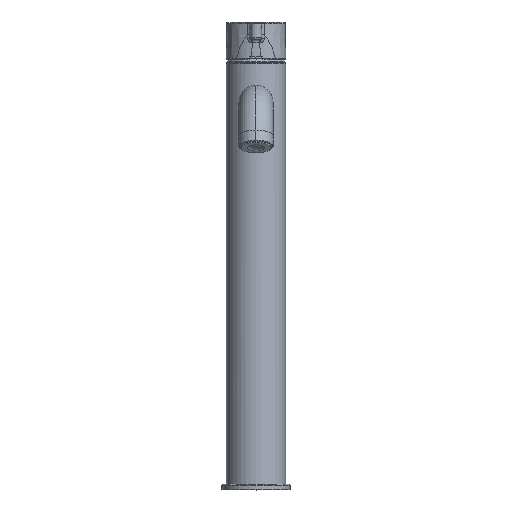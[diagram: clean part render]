
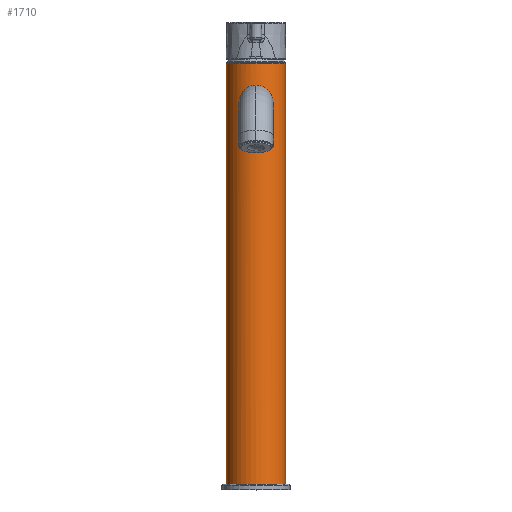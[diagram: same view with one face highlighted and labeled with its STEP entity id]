
A CAD part, top view. The second image highlights one B-rep face of the part: STEP entity #1710.
In plain terms, the highlighted cylindrical face has radius 21 mm (diameter 42 mm), a partial arc.
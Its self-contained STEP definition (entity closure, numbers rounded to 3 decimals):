
#31=CARTESIAN_POINT('',(0.,0.,0.));
#32=DIRECTION('',(0.,1.,0.));
#33=DIRECTION('',(-1.,0.,0.));
#34=AXIS2_PLACEMENT_3D('',#31,#32,#33);
#79=DIRECTION('',(0.,1.,0.));
#80=VECTOR('',#79,297.);
#81=CARTESIAN_POINT('',(-21.,0.,0.));
#82=LINE('',#81,#80);
#83=CARTESIAN_POINT('',(0.,281.2,21.));
#84=CARTESIAN_POINT('',(-0.452,281.2,21.));
#85=CARTESIAN_POINT('',(-1.354,281.149,20.971));
#86=CARTESIAN_POINT('',(-2.698,280.92,20.841));
#87=CARTESIAN_POINT('',(-4.031,280.532,20.624));
#88=CARTESIAN_POINT('',(-5.346,279.976,20.323));
#89=CARTESIAN_POINT('',(-6.628,279.24,19.941));
#90=CARTESIAN_POINT('',(-7.807,278.353,19.507));
#91=CARTESIAN_POINT('',(-8.868,277.329,19.046));
#92=CARTESIAN_POINT('',(-9.799,276.179,18.582));
#93=CARTESIAN_POINT('',(-10.578,274.928,18.147));
#94=CARTESIAN_POINT('',(-11.171,273.653,17.786));
#95=CARTESIAN_POINT('',(-11.588,272.406,17.515));
#96=CARTESIAN_POINT('',(-11.861,271.163,17.33));
#97=CARTESIAN_POINT('',(-12.001,269.908,17.233));
#98=CARTESIAN_POINT('',(-12.009,268.647,17.227));
#99=CARTESIAN_POINT('',(-11.885,267.389,17.314));
#100=CARTESIAN_POINT('',(-11.63,266.153,17.487));
#101=CARTESIAN_POINT('',(-11.236,264.913,17.744));
#102=CARTESIAN_POINT('',(-10.65,263.605,18.105));
#103=CARTESIAN_POINT('',(-9.861,262.305,18.55));
#104=CARTESIAN_POINT('',(-8.909,261.113,19.028));
#105=CARTESIAN_POINT('',(-7.82,260.056,19.503));
#106=CARTESIAN_POINT('',(-6.622,259.156,19.943));
#107=CARTESIAN_POINT('',(-5.349,258.426,20.322));
#108=CARTESIAN_POINT('',(-4.037,257.87,20.623));
#109=CARTESIAN_POINT('',(-2.701,257.481,20.84));
#110=CARTESIAN_POINT('',(-1.351,257.251,20.971));
#111=CARTESIAN_POINT('',(-0.45,257.2,21.));
#112=CARTESIAN_POINT('',(0.,257.2,21.));
#114=CARTESIAN_POINT('',(0.,257.2,21.));
#115=CARTESIAN_POINT('',(0.452,257.2,21.));
#116=CARTESIAN_POINT('',(1.354,257.251,20.971));
#117=CARTESIAN_POINT('',(2.698,257.48,20.841));
#118=CARTESIAN_POINT('',(4.031,257.868,20.624));
#119=CARTESIAN_POINT('',(5.346,258.424,20.323));
#120=CARTESIAN_POINT('',(6.627,259.16,19.941));
#121=CARTESIAN_POINT('',(7.807,260.047,19.507));
#122=CARTESIAN_POINT('',(8.868,261.071,19.046));
#123=CARTESIAN_POINT('',(9.799,262.221,18.582));
#124=CARTESIAN_POINT('',(10.578,263.472,18.147));
#125=CARTESIAN_POINT('',(11.171,264.747,17.786));
#126=CARTESIAN_POINT('',(11.588,265.994,17.515));
#127=CARTESIAN_POINT('',(11.861,267.237,17.33));
#128=CARTESIAN_POINT('',(12.001,268.492,17.233));
#129=CARTESIAN_POINT('',(12.009,269.753,17.227));
#130=CARTESIAN_POINT('',(11.885,271.011,17.314));
#131=CARTESIAN_POINT('',(11.63,272.247,17.487));
#132=CARTESIAN_POINT('',(11.236,273.487,17.744));
#133=CARTESIAN_POINT('',(10.65,274.796,18.105));
#134=CARTESIAN_POINT('',(9.861,276.095,18.55));
#135=CARTESIAN_POINT('',(8.909,277.287,19.028));
#136=CARTESIAN_POINT('',(7.82,278.344,19.503));
#137=CARTESIAN_POINT('',(6.622,279.244,19.943));
#138=CARTESIAN_POINT('',(5.349,279.974,20.322));
#139=CARTESIAN_POINT('',(4.037,280.53,20.623));
#140=CARTESIAN_POINT('',(2.701,280.919,20.84));
#141=CARTESIAN_POINT('',(1.351,281.149,20.971));
#142=CARTESIAN_POINT('',(0.45,281.2,21.));
#143=CARTESIAN_POINT('',(0.,281.2,21.));
#145=DIRECTION('',(0.,1.,0.));
#146=VECTOR('',#145,297.);
#147=CARTESIAN_POINT('',(21.,0.,0.));
#148=LINE('',#147,#146);
#194=CARTESIAN_POINT('',(0.,297.,0.));
#195=DIRECTION('',(0.,-1.,0.));
#196=DIRECTION('',(1.,0.,0.));
#197=AXIS2_PLACEMENT_3D('',#194,#195,#196);
#1448=CARTESIAN_POINT('',(-21.,297.,0.));
#1449=VERTEX_POINT('',#1448);
#1450=CARTESIAN_POINT('',(21.,297.,0.));
#1451=VERTEX_POINT('',#1450);
#1452=CARTESIAN_POINT('',(-21.,0.,0.));
#1453=VERTEX_POINT('',#1452);
#1454=CARTESIAN_POINT('',(21.,0.,0.));
#1455=VERTEX_POINT('',#1454);
#1456=VERTEX_POINT('',#83);
#1457=VERTEX_POINT('',#112);
#1690=CARTESIAN_POINT('',(0.,312.375,0.));
#1691=DIRECTION('',(0.,-1.,0.));
#1692=DIRECTION('',(-1.,0.,0.));
#1693=AXIS2_PLACEMENT_3D('',#1690,#1691,#1692);
#1694=CYLINDRICAL_SURFACE('',#1693,21.);
#1696=ORIENTED_EDGE('',*,*,#1695,.T.);
#1698=ORIENTED_EDGE('',*,*,#1697,.F.);
#1700=ORIENTED_EDGE('',*,*,#1699,.F.);
#1701=ORIENTED_EDGE('',*,*,#1627,.F.);
#1702=EDGE_LOOP('',(#1696,#1698,#1700,#1701));
#1703=FACE_OUTER_BOUND('',#1702,.F.);
#1705=ORIENTED_EDGE('',*,*,#1704,.T.);
#1707=ORIENTED_EDGE('',*,*,#1706,.T.);
#1708=EDGE_LOOP('',(#1705,#1707));
#1709=FACE_BOUND('',#1708,.F.);
#1710=ADVANCED_FACE('',(#1703,#1709),#1694,.T.);
#35=CIRCLE('',#34,21.);
#113=B_SPLINE_CURVE_WITH_KNOTS('',3,(#83,#84,#85,#86,#87,#88,#89,#90,#91,#92,
#93,#94,#95,#96,#97,#98,#99,#100,#101,#102,#103,#104,#105,#106,#107,#108,#109,
#110,#111,#112),.UNSPECIFIED.,.F.,.F.,(4,1,1,1,1,1,1,1,1,1,1,1,1,1,1,1,1,1,1,1,
1,1,1,1,1,1,1,4),(0.,0.037,0.074,0.111,
0.148,0.185,0.222,0.259,
0.296,0.333,0.37,0.407,
0.444,0.481,0.519,0.556,
0.593,0.63,0.667,0.704,
0.741,0.778,0.815,0.852,
0.889,0.926,0.963,1.),.UNSPECIFIED.);
#144=B_SPLINE_CURVE_WITH_KNOTS('',3,(#114,#115,#116,#117,#118,#119,#120,#121,
#122,#123,#124,#125,#126,#127,#128,#129,#130,#131,#132,#133,#134,#135,#136,#137,
#138,#139,#140,#141,#142,#143),.UNSPECIFIED.,.F.,.F.,(4,1,1,1,1,1,1,1,1,1,1,1,1,
1,1,1,1,1,1,1,1,1,1,1,1,1,1,4),(0.,0.037,0.074,
0.111,0.148,0.185,0.222,
0.259,0.296,0.333,0.37,
0.407,0.444,0.481,0.519,
0.556,0.593,0.63,0.667,
0.704,0.741,0.778,0.815,
0.852,0.889,0.926,0.963,1.),
.UNSPECIFIED.);
#198=CIRCLE('',#197,21.);
#1627=EDGE_CURVE('',#1453,#1455,#35,.T.);
#1695=EDGE_CURVE('',#1453,#1449,#82,.T.);
#1697=EDGE_CURVE('',#1451,#1449,#198,.T.);
#1699=EDGE_CURVE('',#1455,#1451,#148,.T.);
#1704=EDGE_CURVE('',#1456,#1457,#113,.T.);
#1706=EDGE_CURVE('',#1457,#1456,#144,.T.);
